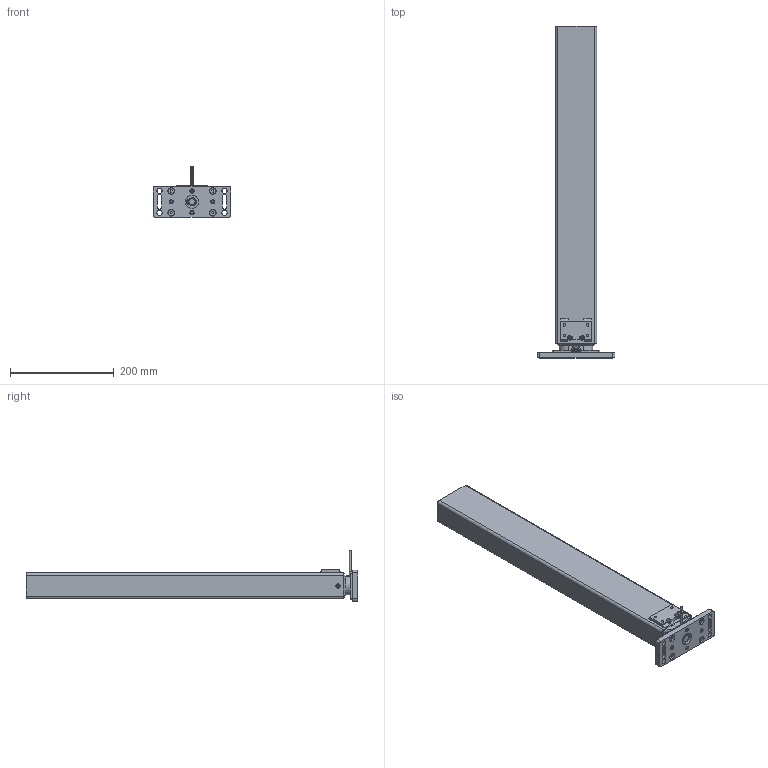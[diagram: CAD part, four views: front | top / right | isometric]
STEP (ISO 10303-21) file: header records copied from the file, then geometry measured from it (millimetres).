
FILE_DESCRIPTION(/* description */ ('Unknown'),/* implementation_level */ '2;1');
FILE_NAME(/* name */ '306.00090 Tischbein TA 1450 eingefahren',/* time_stamp */ '2018-01-31T16:23:08+01:00',/* author */ ('Unknown'),/* organization */ ('Unknown'),/* preprocessor_version */ 'ST-DEVELOPER v16.7',/* originating_system */ 'DEX',/* authorisation */ $);
FILE_SCHEMA (('AUTOMOTIVE_DESIGN {1 0 10303 214 3 1 1}'));
Length unit declared in the file: millimetre
Products named in the file (21): 306.00090; 124.00004; 142.00068; 107.00147_oa_0; 115.00007_oa_1; 125.00033; 142.00021; 125.00021; 127.00038; 127.00034_oa_2; Aussenprofil TA 1450; 127.00032; 127.00035; Innenprofil TA 1450; Abschlussplatte; 127.00048; Schraube 2,9x6,4; 127.00034_2'403_2'488_Kehlnaht 1_oa_3; 113.00002_70mm; 142.00031; 142.00077
Assembly tree (27 placements, depth 3):
  306.00090
    124.00004
    142.00068
    107.00147_oa_0
      115.00007_oa_1
      125.00033
      142.00021
      125.00021
    127.00038
    127.00034_oa_2
      Aussenprofil TA 1450
      127.00032
      127.00035
      Innenprofil TA 1450
      Abschlussplatte
      127.00048
      Schraube 2,9x6,4  x6
    113.00002_70mm
    142.00031
    142.00077  x4
  127.00034_2'403_2'488_Kehlnaht 1_oa_3
Bounding box: 150 x 638.5 x 98 mm (x, y, z)
Volume: 606425.9 mm3; surface area: 567594.4 mm2
Topology: 28 solids, 28 shells, 980 faces, 2309 edges, 1375 vertices
Faces by surface type: cylinder 361, plane 329, bspline 129, torus 74, cone 74, sphere 13
Full cylindrical faces by diameter (mm): 1.8 x2, 2.2 x1, 2.5 x6, 2.78 x1, 2.9 x6, 3.5 x1, 4 x1, 4.1 x1, 4.2 x1, 4.917 x16, 5.8 x8, 6 x4, 6.5 x6, 6.647 x1, 6.917 x2, 7 x4, 8 x3, 8.376 x2, 9 x2, 10 x4, 12 x1, 12.5 x1, 13 x6, 13.5 x1, 13.9 x2, 25 x1
Entity records: 23633 total; most frequent: CARTESIAN_POINT 5859, DIRECTION 3257, ORIENTED_EDGE 3140, EDGE_CURVE 1570, AXIS2_PLACEMENT_3D 1296, VERTEX_POINT 1020, FACE_BOUND 962, EDGE_LOOP 960
